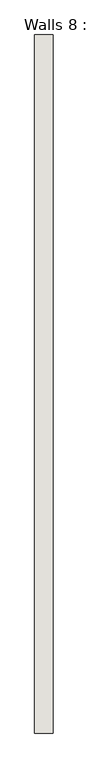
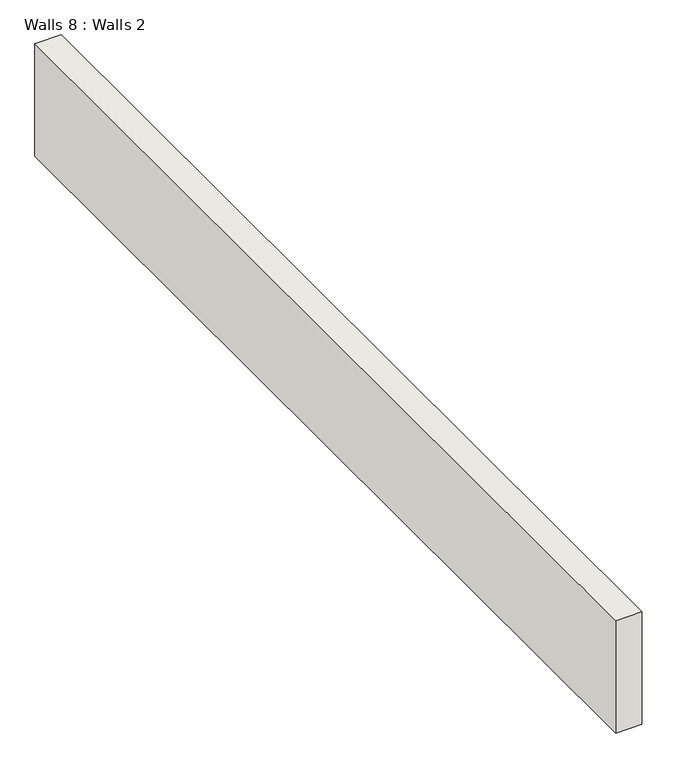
"""IFC4 building model written with IfcOpenShell, lengths in millimetres: wall geometry, Walls 8 : Walls 2."""

from ifc_helpers import new_model, si_unit, frame, origin, place, context, project, spatial, polyline, outline, extrude, source, transform, mapped, element, save


def walls_8_walls_2_894dc8dd(model_context):
    return source(origin(), model_context, "Body", "SweptSolid", [
        extrude(outline(polyline([(7414.8405985, 4203.7823378), (7490.5167156, 4203.7823378), (7490.5167156, 1303.7823378), (7414.8405985, 1303.7823378), (7414.8405985, 4203.7823378)])), frame((0.0, 0.0, 330.1752743), z_axis=(0.0, 0.0, 1.0), x_axis=(1.0, 0.0, 0.0)), (0.0, 0.0, 1.0), 342.9504948),
    ])


if __name__ == "__main__":
    model = new_model("IFC4")
    model_context = context("Model", 3, world=origin())
    ifc_project = project(units=[si_unit("LENGTHUNIT", "METRE", prefix="MILLI")], contexts=[model_context])
    site = spatial("IfcSite", under=ifc_project)
    building = spatial("IfcBuilding", under=site)
    placement = place(None, origin())
    walls_8_walls_2_shape = walls_8_walls_2_894dc8dd(model_context)
    element("IfcWall", 1, ObjectType="Walls 8 : Walls 2", at=placement, inside=building, context=model_context, shape_type="MappedRepresentation", body=[
        mapped(walls_8_walls_2_shape, transform((0.0, 0.0, 0.0), x_axis=(1.0, 0.0, 0.0), y_axis=(0.0, 1.0, 0.0), z_axis=(0.0, 0.0, 1.0))),
    ])
    save(model, "model.ifc")
